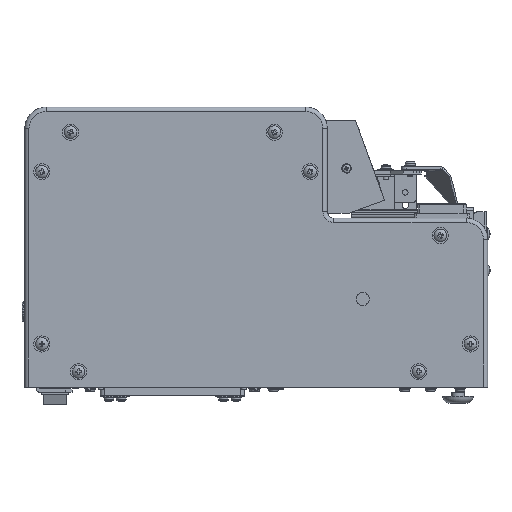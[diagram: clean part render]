
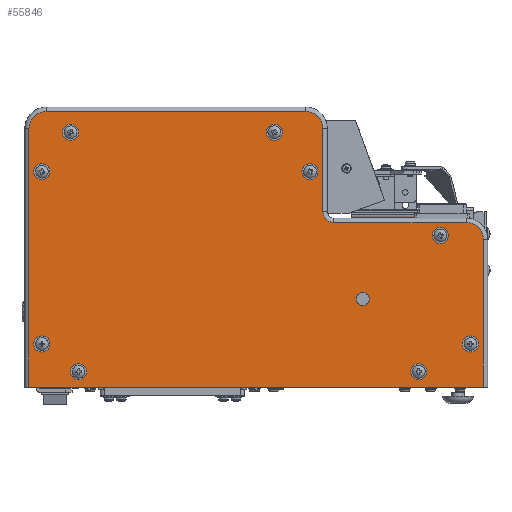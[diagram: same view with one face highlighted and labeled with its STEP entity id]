
A CAD part, front view. The second image highlights one B-rep face of the part: STEP entity #55846.
In plain terms, the highlighted planar face has unit normal (0, -1, 0).
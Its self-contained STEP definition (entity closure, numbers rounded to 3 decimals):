
#831=FACE_BOUND('',#8457,.T.);
#832=FACE_BOUND('',#8458,.T.);
#833=FACE_BOUND('',#8459,.T.);
#834=FACE_BOUND('',#8460,.T.);
#835=FACE_BOUND('',#8461,.T.);
#836=FACE_BOUND('',#8462,.T.);
#837=FACE_BOUND('',#8463,.T.);
#838=FACE_BOUND('',#8464,.T.);
#839=FACE_BOUND('',#8465,.T.);
#840=FACE_BOUND('',#8466,.T.);
#2090=PLANE('',#59752);
#5259=FACE_OUTER_BOUND('',#8456,.T.);
#8456=EDGE_LOOP('',(#43283,#43284,#43285,#43286,#43287,#43288,#43289,#43290,
#43291,#43292));
#8457=EDGE_LOOP('',(#43293));
#8458=EDGE_LOOP('',(#43294));
#8459=EDGE_LOOP('',(#43295));
#8460=EDGE_LOOP('',(#43296));
#8461=EDGE_LOOP('',(#43297));
#8462=EDGE_LOOP('',(#43298));
#8463=EDGE_LOOP('',(#43299));
#8464=EDGE_LOOP('',(#43300));
#8465=EDGE_LOOP('',(#43301));
#8466=EDGE_LOOP('',(#43302));
#13243=LINE('',#89009,#18432);
#13246=LINE('',#89023,#18435);
#13247=LINE('',#89031,#18436);
#13249=LINE('',#89043,#18438);
#13251=LINE('',#89055,#18440);
#13252=LINE('',#89057,#18441);
#18432=VECTOR('',#69824,10.);
#18435=VECTOR('',#69841,10.);
#18436=VECTOR('',#69852,10.);
#18438=VECTOR('',#69866,10.);
#18440=VECTOR('',#69880,10.);
#18441=VECTOR('',#69883,10.);
#21764=CIRCLE('',#59732,8.);
#21767=CIRCLE('',#59737,8.);
#21771=CIRCLE('',#59743,5.);
#21775=CIRCLE('',#59749,8.);
#21777=CIRCLE('',#59753,3.75);
#21778=CIRCLE('',#59754,3.75);
#21779=CIRCLE('',#59755,3.75);
#21780=CIRCLE('',#59756,3.75);
#21781=CIRCLE('',#59757,3.75);
#21782=CIRCLE('',#59758,3.75);
#21783=CIRCLE('',#59759,3.75);
#21784=CIRCLE('',#59760,3.75);
#21785=CIRCLE('',#59761,3.75);
#21786=CIRCLE('',#59762,3.);
#25851=VERTEX_POINT('',#89006);
#25852=VERTEX_POINT('',#89008);
#25854=VERTEX_POINT('',#89014);
#25856=VERTEX_POINT('',#89020);
#25857=VERTEX_POINT('',#89025);
#25858=VERTEX_POINT('',#89029);
#25859=VERTEX_POINT('',#89033);
#25861=VERTEX_POINT('',#89039);
#25863=VERTEX_POINT('',#89045);
#25865=VERTEX_POINT('',#89051);
#25867=VERTEX_POINT('',#89058);
#25868=VERTEX_POINT('',#89060);
#25869=VERTEX_POINT('',#89062);
#25870=VERTEX_POINT('',#89064);
#25871=VERTEX_POINT('',#89066);
#25872=VERTEX_POINT('',#89068);
#25873=VERTEX_POINT('',#89070);
#25874=VERTEX_POINT('',#89072);
#25875=VERTEX_POINT('',#89074);
#25876=VERTEX_POINT('',#89076);
#32213=EDGE_CURVE('',#25851,#25852,#13243,.T.);
#32218=EDGE_CURVE('',#25852,#25854,#21764,.T.);
#32221=EDGE_CURVE('',#25854,#25856,#13246,.T.);
#32223=EDGE_CURVE('',#25856,#25857,#21767,.T.);
#32225=EDGE_CURVE('',#25857,#25858,#13247,.T.);
#32228=EDGE_CURVE('',#25858,#25859,#21771,.T.);
#32231=EDGE_CURVE('',#25859,#25861,#13249,.T.);
#32234=EDGE_CURVE('',#25861,#25863,#21775,.T.);
#32237=EDGE_CURVE('',#25863,#25865,#13251,.T.);
#32238=EDGE_CURVE('',#25865,#25851,#13252,.T.);
#32239=EDGE_CURVE('',#25867,#25867,#21777,.T.);
#32240=EDGE_CURVE('',#25868,#25868,#21778,.T.);
#32241=EDGE_CURVE('',#25869,#25869,#21779,.T.);
#32242=EDGE_CURVE('',#25870,#25870,#21780,.T.);
#32243=EDGE_CURVE('',#25871,#25871,#21781,.T.);
#32244=EDGE_CURVE('',#25872,#25872,#21782,.T.);
#32245=EDGE_CURVE('',#25873,#25873,#21783,.T.);
#32246=EDGE_CURVE('',#25874,#25874,#21784,.T.);
#32247=EDGE_CURVE('',#25875,#25875,#21785,.T.);
#32248=EDGE_CURVE('',#25876,#25876,#21786,.T.);
#43283=ORIENTED_EDGE('',*,*,#32237,.F.);
#43284=ORIENTED_EDGE('',*,*,#32234,.F.);
#43285=ORIENTED_EDGE('',*,*,#32231,.F.);
#43286=ORIENTED_EDGE('',*,*,#32228,.F.);
#43287=ORIENTED_EDGE('',*,*,#32225,.F.);
#43288=ORIENTED_EDGE('',*,*,#32223,.F.);
#43289=ORIENTED_EDGE('',*,*,#32221,.F.);
#43290=ORIENTED_EDGE('',*,*,#32218,.F.);
#43291=ORIENTED_EDGE('',*,*,#32213,.F.);
#43292=ORIENTED_EDGE('',*,*,#32238,.F.);
#43293=ORIENTED_EDGE('',*,*,#32239,.T.);
#43294=ORIENTED_EDGE('',*,*,#32240,.T.);
#43295=ORIENTED_EDGE('',*,*,#32241,.T.);
#43296=ORIENTED_EDGE('',*,*,#32242,.T.);
#43297=ORIENTED_EDGE('',*,*,#32243,.T.);
#43298=ORIENTED_EDGE('',*,*,#32244,.T.);
#43299=ORIENTED_EDGE('',*,*,#32245,.T.);
#43300=ORIENTED_EDGE('',*,*,#32246,.T.);
#43301=ORIENTED_EDGE('',*,*,#32247,.T.);
#43302=ORIENTED_EDGE('',*,*,#32248,.T.);
#55846=ADVANCED_FACE('',(#5259,#831,#832,#833,#834,#835,#836,#837,#838,
#839,#840),#2090,.T.);
#59732=AXIS2_PLACEMENT_3D('',#89018,#69834,#69835);
#59737=AXIS2_PLACEMENT_3D('',#89027,#69846,#69847);
#59743=AXIS2_PLACEMENT_3D('',#89037,#69859,#69860);
#59749=AXIS2_PLACEMENT_3D('',#89049,#69873,#69874);
#59752=AXIS2_PLACEMENT_3D('',#89056,#69881,#69882);
#59753=AXIS2_PLACEMENT_3D('',#89059,#69884,#69885);
#59754=AXIS2_PLACEMENT_3D('',#89061,#69886,#69887);
#59755=AXIS2_PLACEMENT_3D('',#89063,#69888,#69889);
#59756=AXIS2_PLACEMENT_3D('',#89065,#69890,#69891);
#59757=AXIS2_PLACEMENT_3D('',#89067,#69892,#69893);
#59758=AXIS2_PLACEMENT_3D('',#89069,#69894,#69895);
#59759=AXIS2_PLACEMENT_3D('',#89071,#69896,#69897);
#59760=AXIS2_PLACEMENT_3D('',#89073,#69898,#69899);
#59761=AXIS2_PLACEMENT_3D('',#89075,#69900,#69901);
#59762=AXIS2_PLACEMENT_3D('',#89077,#69902,#69903);
#69824=DIRECTION('',(0.,0.,1.));
#69834=DIRECTION('center_axis',(0.,1.,0.));
#69835=DIRECTION('ref_axis',(-0.707,0.,0.707));
#69841=DIRECTION('',(1.,0.,0.));
#69846=DIRECTION('center_axis',(0.,1.,0.));
#69847=DIRECTION('ref_axis',(0.707,0.,0.707));
#69852=DIRECTION('',(0.,0.,-1.));
#69859=DIRECTION('center_axis',(0.,-1.,0.));
#69860=DIRECTION('ref_axis',(-0.707,0.,-0.707));
#69866=DIRECTION('',(1.,0.,0.));
#69873=DIRECTION('center_axis',(0.,1.,0.));
#69874=DIRECTION('ref_axis',(0.707,0.,0.707));
#69880=DIRECTION('',(0.,0.,-1.));
#69881=DIRECTION('center_axis',(0.,-1.,0.));
#69882=DIRECTION('ref_axis',(1.,0.,0.));
#69883=DIRECTION('',(-1.,0.,0.));
#69884=DIRECTION('center_axis',(0.,1.,0.));
#69885=DIRECTION('ref_axis',(-1.,0.,0.));
#69886=DIRECTION('center_axis',(0.,1.,0.));
#69887=DIRECTION('ref_axis',(-1.,0.,0.));
#69888=DIRECTION('center_axis',(0.,1.,0.));
#69889=DIRECTION('ref_axis',(-1.,0.,0.));
#69890=DIRECTION('center_axis',(0.,1.,0.));
#69891=DIRECTION('ref_axis',(-1.,0.,0.));
#69892=DIRECTION('center_axis',(0.,1.,0.));
#69893=DIRECTION('ref_axis',(-1.,0.,0.));
#69894=DIRECTION('center_axis',(0.,1.,0.));
#69895=DIRECTION('ref_axis',(-1.,0.,0.));
#69896=DIRECTION('center_axis',(0.,1.,0.));
#69897=DIRECTION('ref_axis',(-1.,0.,0.));
#69898=DIRECTION('center_axis',(0.,1.,0.));
#69899=DIRECTION('ref_axis',(-1.,0.,0.));
#69900=DIRECTION('center_axis',(0.,1.,0.));
#69901=DIRECTION('ref_axis',(-1.,0.,0.));
#69902=DIRECTION('center_axis',(0.,1.,0.));
#69903=DIRECTION('ref_axis',(-1.,0.,0.));
#89006=CARTESIAN_POINT('',(28.359,-43.371,125.184));
#89008=CARTESIAN_POINT('',(28.359,-43.371,245.184));
#89009=CARTESIAN_POINT('',(28.359,-43.371,154.898));
#89014=CARTESIAN_POINT('',(36.359,-43.371,253.184));
#89018=CARTESIAN_POINT('Origin',(36.359,-43.371,245.184));
#89020=CARTESIAN_POINT('',(156.859,-43.371,253.184));
#89023=CARTESIAN_POINT('',(77.323,-43.371,253.184));
#89025=CARTESIAN_POINT('',(164.859,-43.371,245.184));
#89027=CARTESIAN_POINT('Origin',(156.859,-43.371,245.184));
#89029=CARTESIAN_POINT('',(164.859,-43.371,206.584));
#89031=CARTESIAN_POINT('',(164.859,-43.371,219.898));
#89033=CARTESIAN_POINT('',(169.859,-43.371,201.584));
#89037=CARTESIAN_POINT('Origin',(169.859,-43.371,206.584));
#89039=CARTESIAN_POINT('',(231.359,-43.371,201.584));
#89043=CARTESIAN_POINT('',(147.573,-43.371,201.584));
#89045=CARTESIAN_POINT('',(239.359,-43.371,193.584));
#89049=CARTESIAN_POINT('Origin',(231.359,-43.371,193.584));
#89051=CARTESIAN_POINT('',(239.359,-43.371,125.184));
#89055=CARTESIAN_POINT('',(239.359,-43.371,194.098));
#89056=CARTESIAN_POINT('Origin',(128.288,-43.371,184.612));
#89057=CARTESIAN_POINT('',(241.359,-43.371,125.184));
#89058=CARTESIAN_POINT('',(162.609,-43.371,225.184));
#89059=CARTESIAN_POINT('Origin',(158.859,-43.371,225.184));
#89060=CARTESIAN_POINT('',(223.109,-43.371,195.584));
#89061=CARTESIAN_POINT('Origin',(219.359,-43.371,195.584));
#89062=CARTESIAN_POINT('',(51.409,-43.371,243.484));
#89063=CARTESIAN_POINT('Origin',(47.659,-43.371,243.484));
#89064=CARTESIAN_POINT('',(55.109,-43.371,132.284));
#89065=CARTESIAN_POINT('Origin',(51.359,-43.371,132.284));
#89066=CARTESIAN_POINT('',(38.109,-43.371,145.184));
#89067=CARTESIAN_POINT('Origin',(34.359,-43.371,145.184));
#89068=CARTESIAN_POINT('',(38.109,-43.371,225.184));
#89069=CARTESIAN_POINT('Origin',(34.359,-43.371,225.184));
#89070=CARTESIAN_POINT('',(146.009,-43.371,243.484));
#89071=CARTESIAN_POINT('Origin',(142.259,-43.371,243.484));
#89072=CARTESIAN_POINT('',(237.109,-43.371,145.184));
#89073=CARTESIAN_POINT('Origin',(233.359,-43.371,145.184));
#89074=CARTESIAN_POINT('',(213.109,-43.371,132.284));
#89075=CARTESIAN_POINT('Origin',(209.359,-43.371,132.284));
#89076=CARTESIAN_POINT('',(186.359,-43.371,166.084));
#89077=CARTESIAN_POINT('Origin',(183.359,-43.371,166.084));
